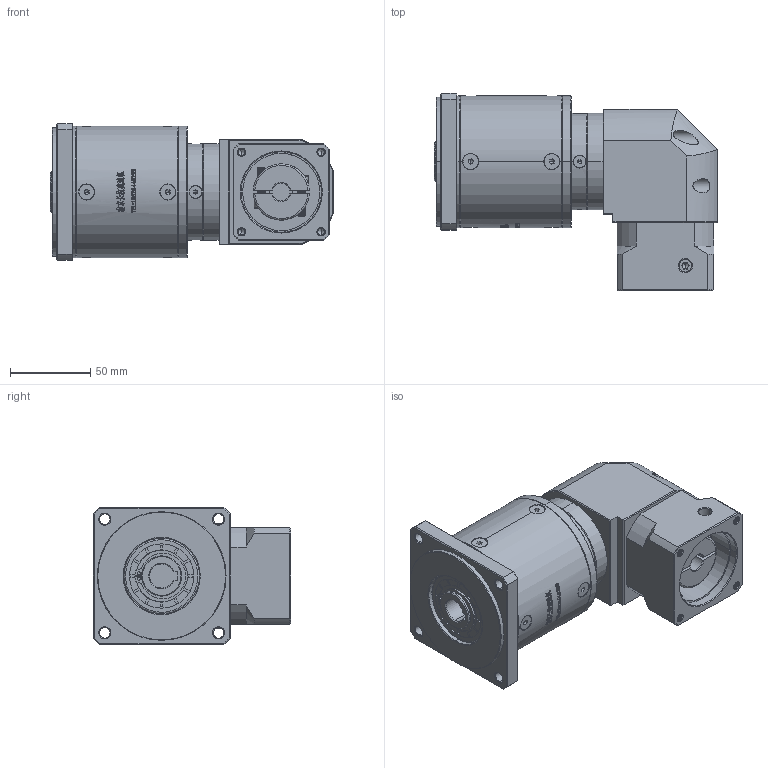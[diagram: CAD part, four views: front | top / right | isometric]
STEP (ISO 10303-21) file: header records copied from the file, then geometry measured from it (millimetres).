
FILE_DESCRIPTION (( 'STEP AP214' ), '1' );
FILE_NAME ('ZFR80-K15-L3-11-50-70-M5.step', '2022-05-08T15:00:14', ( '' ), ( 'Microsoft' ), 'SwSTEP 2.0', 'SolidWorks 2016', '' );
FILE_SCHEMA (( 'AUTOMOTIVE_DESIGN' ));
Length unit declared in the file: millimetre
Products named in the file (1): ZFR80-K15-L3-11-50-70-M5
Bounding box: 176 x 122.7 x 85 mm (x, y, z)
Volume: 870787.1 mm3; surface area: 106438.8 mm2
Topology: 17 solids, 18 shells, 3028 faces, 8094 edges, 5222 vertices
Faces by surface type: plane 1594, bspline 598, cylinder 441, cone 375, torus 20
Entity records: 159601 total; most frequent: CARTESIAN_POINT 55815, ORIENTED_EDGE 16100, DIRECTION 12316, EDGE_CURVE 8050, VERTEX_POINT 5222, LINE 4944, VECTOR 4944, AXIS2_PLACEMENT_3D 3686
